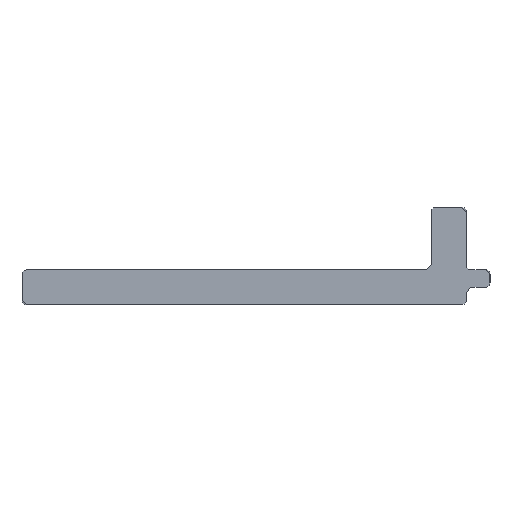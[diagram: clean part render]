
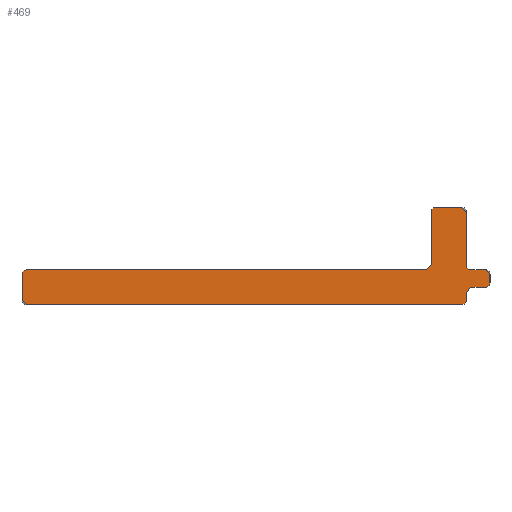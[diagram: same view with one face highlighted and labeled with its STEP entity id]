
A CAD part, left-side view. The second image highlights one B-rep face of the part: STEP entity #469.
In plain terms, the highlighted planar face has unit normal (-1, 0, 0).
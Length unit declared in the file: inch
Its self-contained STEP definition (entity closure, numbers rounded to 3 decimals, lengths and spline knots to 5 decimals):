
#5=DIRECTION('',(0.,0.,-1.));
#6=VECTOR('',#5,0.18009);
#7=CARTESIAN_POINT('',(-48.,0.118,0.315));
#8=LINE('',#7,#6);
#22=CARTESIAN_POINT('',(-48.,0.103,0.315));
#23=DIRECTION('',(1.,0.,0.));
#24=DIRECTION('',(0.,1.,0.));
#25=AXIS2_PLACEMENT_3D('',#22,#23,#24);
#27=CARTESIAN_POINT('',(-48.,0.015,0.33));
#28=CARTESIAN_POINT('',(-48.,0.0118,0.33));
#29=CARTESIAN_POINT('',(-48.,0.00655,0.32871));
#30=CARTESIAN_POINT('',(-48.,-0.00003,0.31973));
#31=CARTESIAN_POINT('',(-48.,0.00066,0.31865));
#32=CARTESIAN_POINT('',(-48.,0.00003,0.31309));
#34=CARTESIAN_POINT('',(-48.,-0.015,0.134));
#35=DIRECTION('',(-1.,0.,0.));
#36=DIRECTION('',(0.,1.,0.));
#37=AXIS2_PLACEMENT_3D('',#34,#35,#36);
#39=CARTESIAN_POINT('',(-48.,-0.065,0.119));
#40=CARTESIAN_POINT('',(-48.,-0.0682,0.119));
#41=CARTESIAN_POINT('',(-48.,-0.07345,0.11771));
#42=CARTESIAN_POINT('',(-48.,-0.08003,0.10873));
#43=CARTESIAN_POINT('',(-48.,-0.07934,0.10765));
#44=CARTESIAN_POINT('',(-48.,-0.07997,0.10209));
#46=CARTESIAN_POINT('',(-48.,-0.065,0.074));
#47=DIRECTION('',(1.,0.,0.));
#48=DIRECTION('',(0.,-1.,0.));
#49=AXIS2_PLACEMENT_3D('',#46,#47,#48);
#51=CARTESIAN_POINT('',(-48.,-0.015,0.059));
#52=CARTESIAN_POINT('',(-48.,-0.0118,0.059));
#53=CARTESIAN_POINT('',(-48.,-0.00655,0.05771));
#54=CARTESIAN_POINT('',(-48.,0.00003,0.04873));
#55=CARTESIAN_POINT('',(-48.,-0.00066,0.04765));
#56=CARTESIAN_POINT('',(-48.,-0.00003,0.04209));
#58=CARTESIAN_POINT('',(-48.,0.015,0.015));
#59=DIRECTION('',(1.,0.,0.));
#60=DIRECTION('',(0.,-1.,0.));
#61=AXIS2_PLACEMENT_3D('',#58,#59,#60);
#63=CARTESIAN_POINT('',(-48.,1.485,0.));
#64=CARTESIAN_POINT('',(-48.,1.4882,0.));
#65=CARTESIAN_POINT('',(-48.,1.49345,0.00129));
#66=CARTESIAN_POINT('',(-48.,1.50003,0.01027));
#67=CARTESIAN_POINT('',(-48.,1.49934,0.01135));
#68=CARTESIAN_POINT('',(-48.,1.49997,0.01691));
#70=CARTESIAN_POINT('',(-48.,1.485,0.103));
#71=DIRECTION('',(1.,0.,0.));
#72=DIRECTION('',(0.,1.,0.));
#73=AXIS2_PLACEMENT_3D('',#70,#71,#72);
#75=CARTESIAN_POINT('',(-48.,0.133,0.118));
#76=CARTESIAN_POINT('',(-48.,0.1298,0.118));
#77=CARTESIAN_POINT('',(-48.,0.12455,0.11929));
#78=CARTESIAN_POINT('',(-48.,0.11797,0.12827));
#79=CARTESIAN_POINT('',(-48.,0.11866,0.12935));
#80=CARTESIAN_POINT('',(-48.,0.11803,0.13491));
#99=DIRECTION('',(0.,1.,0.));
#100=VECTOR('',#99,0.088);
#101=CARTESIAN_POINT('',(-48.,0.015,0.33));
#102=LINE('',#101,#100);
#120=DIRECTION('',(0.,0.,1.));
#121=VECTOR('',#120,0.17909);
#122=CARTESIAN_POINT('',(-48.,0.,0.134));
#123=LINE('',#122,#121);
#141=DIRECTION('',(0.,1.,0.));
#142=VECTOR('',#141,0.05);
#143=CARTESIAN_POINT('',(-48.,-0.065,0.119));
#144=LINE('',#143,#142);
#162=DIRECTION('',(0.,0.001,1.));
#163=VECTOR('',#162,0.02809);
#164=CARTESIAN_POINT('',(-48.,-0.08,0.074));
#165=LINE('',#164,#163);
#183=DIRECTION('',(0.,-1.,0.));
#184=VECTOR('',#183,0.05);
#185=CARTESIAN_POINT('',(-48.,-0.015,0.059));
#186=LINE('',#185,#184);
#204=DIRECTION('',(0.,-0.001,1.));
#205=VECTOR('',#204,0.02709);
#206=CARTESIAN_POINT('',(-48.,0.,0.015));
#207=LINE('',#206,#205);
#225=DIRECTION('',(0.,-1.,0.));
#226=VECTOR('',#225,1.47);
#227=CARTESIAN_POINT('',(-48.,1.485,0.));
#228=LINE('',#227,#226);
#246=DIRECTION('',(0.,0.,-1.));
#247=VECTOR('',#246,0.08609);
#248=CARTESIAN_POINT('',(-48.,1.5,0.103));
#249=LINE('',#248,#247);
#267=DIRECTION('',(0.,1.,0.));
#268=VECTOR('',#267,1.352);
#269=CARTESIAN_POINT('',(-48.,0.133,0.118));
#270=LINE('',#269,#268);
#271=CARTESIAN_POINT('',(-48.,0.118,0.315));
#272=CARTESIAN_POINT('',(-48.,0.11803,0.13491));
#273=VERTEX_POINT('',#271);
#274=VERTEX_POINT('',#272);
#275=CARTESIAN_POINT('',(-48.,0.103,0.33));
#276=VERTEX_POINT('',#275);
#277=CARTESIAN_POINT('',(-48.,0.015,0.33));
#278=VERTEX_POINT('',#277);
#279=VERTEX_POINT('',#32);
#280=CARTESIAN_POINT('',(-48.,0.,0.134));
#281=VERTEX_POINT('',#280);
#282=CARTESIAN_POINT('',(-48.,-0.015,0.119));
#283=VERTEX_POINT('',#282);
#284=CARTESIAN_POINT('',(-48.,-0.065,0.119));
#285=VERTEX_POINT('',#284);
#286=VERTEX_POINT('',#44);
#287=CARTESIAN_POINT('',(-48.,-0.08,0.074));
#288=VERTEX_POINT('',#287);
#289=CARTESIAN_POINT('',(-48.,-0.065,0.059));
#290=VERTEX_POINT('',#289);
#291=CARTESIAN_POINT('',(-48.,-0.015,0.059));
#292=VERTEX_POINT('',#291);
#293=VERTEX_POINT('',#56);
#294=CARTESIAN_POINT('',(-48.,0.,0.015));
#295=VERTEX_POINT('',#294);
#296=CARTESIAN_POINT('',(-48.,0.015,0.));
#297=VERTEX_POINT('',#296);
#298=CARTESIAN_POINT('',(-48.,1.485,0.));
#299=VERTEX_POINT('',#298);
#300=VERTEX_POINT('',#68);
#301=CARTESIAN_POINT('',(-48.,1.5,0.103));
#302=VERTEX_POINT('',#301);
#303=CARTESIAN_POINT('',(-48.,1.485,0.118));
#304=VERTEX_POINT('',#303);
#305=CARTESIAN_POINT('',(-48.,0.133,0.118));
#306=VERTEX_POINT('',#305);
#424=CARTESIAN_POINT('',(-48.,0.,0.));
#425=DIRECTION('',(1.,0.,0.));
#426=DIRECTION('',(0.,-1.,0.));
#427=AXIS2_PLACEMENT_3D('',#424,#425,#426);
#428=PLANE('',#427);
#430=ORIENTED_EDGE('',*,*,#429,.T.);
#432=ORIENTED_EDGE('',*,*,#431,.F.);
#434=ORIENTED_EDGE('',*,*,#433,.T.);
#436=ORIENTED_EDGE('',*,*,#435,.F.);
#438=ORIENTED_EDGE('',*,*,#437,.T.);
#440=ORIENTED_EDGE('',*,*,#439,.F.);
#442=ORIENTED_EDGE('',*,*,#441,.T.);
#444=ORIENTED_EDGE('',*,*,#443,.F.);
#446=ORIENTED_EDGE('',*,*,#445,.T.);
#448=ORIENTED_EDGE('',*,*,#447,.F.);
#450=ORIENTED_EDGE('',*,*,#449,.T.);
#452=ORIENTED_EDGE('',*,*,#451,.F.);
#454=ORIENTED_EDGE('',*,*,#453,.T.);
#456=ORIENTED_EDGE('',*,*,#455,.F.);
#458=ORIENTED_EDGE('',*,*,#457,.T.);
#460=ORIENTED_EDGE('',*,*,#459,.F.);
#462=ORIENTED_EDGE('',*,*,#461,.T.);
#464=ORIENTED_EDGE('',*,*,#463,.F.);
#465=ORIENTED_EDGE('',*,*,#417,.T.);
#466=ORIENTED_EDGE('',*,*,#356,.F.);
#467=EDGE_LOOP('',(#430,#432,#434,#436,#438,#440,#442,#444,#446,#448,#450,#452,
#454,#456,#458,#460,#462,#464,#465,#466));
#468=FACE_OUTER_BOUND('',#467,.F.);
#26=CIRCLE('',#25,0.015);
#33=B_SPLINE_CURVE_WITH_KNOTS('',3,(#27,#28,#29,#30,#31,#32),.UNSPECIFIED.,.F.,
.F.,(4,1,1,4),(0.,0.33333,0.66667,1.),.UNSPECIFIED.);
#38=CIRCLE('',#37,0.015);
#45=B_SPLINE_CURVE_WITH_KNOTS('',3,(#39,#40,#41,#42,#43,#44),.UNSPECIFIED.,.F.,
.F.,(4,1,1,4),(0.,0.33333,0.66667,1.),.UNSPECIFIED.);
#50=CIRCLE('',#49,0.015);
#57=B_SPLINE_CURVE_WITH_KNOTS('',3,(#51,#52,#53,#54,#55,#56),.UNSPECIFIED.,.F.,
.F.,(4,1,1,4),(0.,0.33333,0.66667,1.),.UNSPECIFIED.);
#62=CIRCLE('',#61,0.015);
#69=B_SPLINE_CURVE_WITH_KNOTS('',3,(#63,#64,#65,#66,#67,#68),.UNSPECIFIED.,.F.,
.F.,(4,1,1,4),(0.,0.33333,0.66667,1.),.UNSPECIFIED.);
#74=CIRCLE('',#73,0.015);
#81=B_SPLINE_CURVE_WITH_KNOTS('',3,(#75,#76,#77,#78,#79,#80),.UNSPECIFIED.,.F.,
.F.,(4,1,1,4),(0.,0.33333,0.66667,1.),.UNSPECIFIED.);
#356=EDGE_CURVE('',#273,#274,#8,.T.);
#417=EDGE_CURVE('',#306,#274,#81,.T.);
#429=EDGE_CURVE('',#273,#276,#26,.T.);
#431=EDGE_CURVE('',#278,#276,#102,.T.);
#433=EDGE_CURVE('',#278,#279,#33,.T.);
#435=EDGE_CURVE('',#281,#279,#123,.T.);
#437=EDGE_CURVE('',#281,#283,#38,.T.);
#439=EDGE_CURVE('',#285,#283,#144,.T.);
#441=EDGE_CURVE('',#285,#286,#45,.T.);
#443=EDGE_CURVE('',#288,#286,#165,.T.);
#445=EDGE_CURVE('',#288,#290,#50,.T.);
#447=EDGE_CURVE('',#292,#290,#186,.T.);
#449=EDGE_CURVE('',#292,#293,#57,.T.);
#451=EDGE_CURVE('',#295,#293,#207,.T.);
#453=EDGE_CURVE('',#295,#297,#62,.T.);
#455=EDGE_CURVE('',#299,#297,#228,.T.);
#457=EDGE_CURVE('',#299,#300,#69,.T.);
#459=EDGE_CURVE('',#302,#300,#249,.T.);
#461=EDGE_CURVE('',#302,#304,#74,.T.);
#463=EDGE_CURVE('',#306,#304,#270,.T.);
#469=ADVANCED_FACE('',(#468),#428,.F.);
